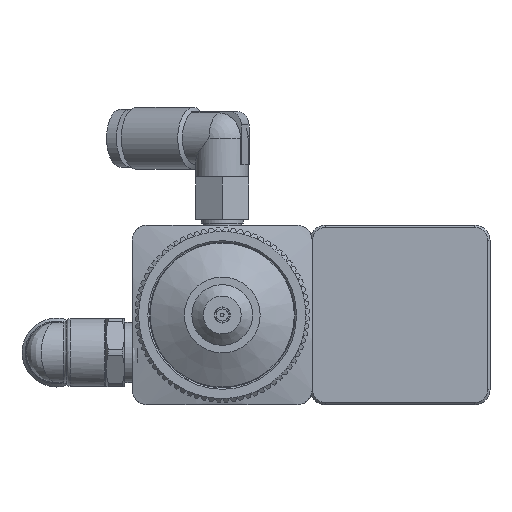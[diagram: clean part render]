
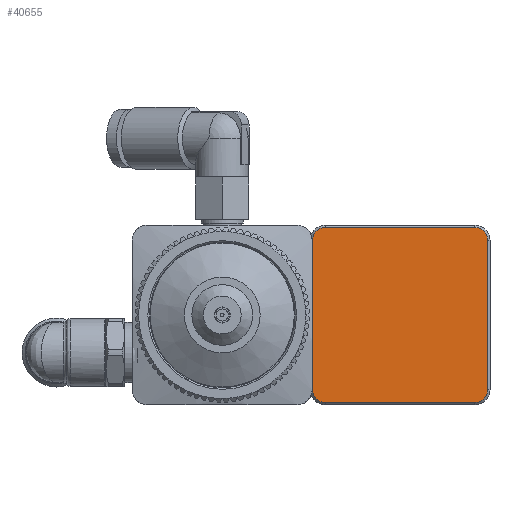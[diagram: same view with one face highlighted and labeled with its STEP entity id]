
A CAD part, front view. The second image highlights one B-rep face of the part: STEP entity #40655.
In plain terms, the highlighted planar face has unit normal (0, -1, 0).
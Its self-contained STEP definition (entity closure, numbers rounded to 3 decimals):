
#160 = CIRCLE ( 'NONE', #36258, 1.7 ) ;
#430 = VERTEX_POINT ( 'NONE', #2510 ) ;
#880 = DIRECTION ( 'NONE',  ( 0., 0., 1. ) ) ;
#2510 = CARTESIAN_POINT ( 'NONE',  ( 190.15, -26.85, 11.55 ) ) ;
#2898 = VERTEX_POINT ( 'NONE', #10738 ) ;
#3776 = DIRECTION ( 'NONE',  ( 0., -1., 0. ) ) ;
#3796 = VECTOR ( 'NONE', #28319, 1000. ) ;
#4065 = DIRECTION ( 'NONE',  ( 0., -1., 0. ) ) ;
#5830 = VERTEX_POINT ( 'NONE', #19244 ) ;
#5972 = LINE ( 'NONE', #40916, #3796 ) ;
#6050 = CARTESIAN_POINT ( 'NONE',  ( 209.85, -26.85, -11.55 ) ) ;
#6532 = VERTEX_POINT ( 'NONE', #6050 ) ;
#7159 = ORIENTED_EDGE ( 'NONE', *, *, #14835, .T. ) ;
#7206 = AXIS2_PLACEMENT_3D ( 'NONE', #38481, #46707, #11509 ) ;
#8125 = EDGE_CURVE ( 'NONE', #49233, #6532, #21408, .T. ) ;
#9200 = EDGE_CURVE ( 'NONE', #27322, #2898, #14053, .T. ) ;
#9824 = CARTESIAN_POINT ( 'NONE',  ( 190.15, -26.85, -11.55 ) ) ;
#10738 = CARTESIAN_POINT ( 'NONE',  ( 209.85, -26.85, 11.55 ) ) ;
#11509 = DIRECTION ( 'NONE',  ( 0., 0., 1. ) ) ;
#12649 = VECTOR ( 'NONE', #17552, 1000. ) ;
#13074 = CARTESIAN_POINT ( 'NONE',  ( 190.15, -26.85, 9.85 ) ) ;
#13115 = CARTESIAN_POINT ( 'NONE',  ( 211.55, -26.85, -9.85 ) ) ;
#13226 = ORIENTED_EDGE ( 'NONE', *, *, #9200, .T. ) ;
#14053 = CIRCLE ( 'NONE', #34552, 1.7 ) ;
#14175 = VERTEX_POINT ( 'NONE', #13115 ) ;
#14279 = VECTOR ( 'NONE', #34505, 1000. ) ;
#14835 = EDGE_CURVE ( 'NONE', #6532, #14175, #160, .T. ) ;
#15679 = LINE ( 'NONE', #31105, #44756 ) ;
#16916 = DIRECTION ( 'NONE',  ( 0., -1., 0. ) ) ;
#17552 = DIRECTION ( 'NONE',  ( 1., 0., 0. ) ) ;
#18330 = CIRCLE ( 'NONE', #47049, 1.7 ) ;
#19244 = CARTESIAN_POINT ( 'NONE',  ( 188.45, -26.85, 9.85 ) ) ;
#19563 = ORIENTED_EDGE ( 'NONE', *, *, #34700, .T. ) ;
#21408 = LINE ( 'NONE', #25770, #12649 ) ;
#24248 = EDGE_LOOP ( 'NONE', ( #19563, #13226, #41226, #50174, #37093, #35484, #49861, #7159 ) ) ;
#24909 = EDGE_CURVE ( 'NONE', #2898, #430, #49949, .T. ) ;
#25770 = CARTESIAN_POINT ( 'NONE',  ( 200., -26.85, -11.55 ) ) ;
#27322 = VERTEX_POINT ( 'NONE', #32899 ) ;
#28319 = DIRECTION ( 'NONE',  ( 0., 0., -1. ) ) ;
#28601 = EDGE_CURVE ( 'NONE', #5830, #29450, #5972, .T. ) ;
#29450 = VERTEX_POINT ( 'NONE', #39916 ) ;
#29617 = CARTESIAN_POINT ( 'NONE',  ( 200., -26.85, 11.55 ) ) ;
#29972 = CIRCLE ( 'NONE', #30777, 1.7 ) ;
#30295 = CARTESIAN_POINT ( 'NONE',  ( 209.85, -26.85, 9.85 ) ) ;
#30759 = FACE_OUTER_BOUND ( 'NONE', #24248, .T. ) ;
#30777 = AXIS2_PLACEMENT_3D ( 'NONE', #13074, #16916, #40049 ) ;
#31105 = CARTESIAN_POINT ( 'NONE',  ( 211.55, -26.85, 0. ) ) ;
#31320 = EDGE_CURVE ( 'NONE', #29450, #49233, #18330, .T. ) ;
#32899 = CARTESIAN_POINT ( 'NONE',  ( 211.55, -26.85, 9.85 ) ) ;
#34505 = DIRECTION ( 'NONE',  ( -1., 0., 0. ) ) ;
#34552 = AXIS2_PLACEMENT_3D ( 'NONE', #30295, #45950, #50085 ) ;
#34700 = EDGE_CURVE ( 'NONE', #14175, #27322, #15679, .T. ) ;
#35484 = ORIENTED_EDGE ( 'NONE', *, *, #31320, .T. ) ;
#36258 = AXIS2_PLACEMENT_3D ( 'NONE', #38683, #3776, #50539 ) ;
#37093 = ORIENTED_EDGE ( 'NONE', *, *, #28601, .T. ) ;
#38481 = CARTESIAN_POINT ( 'NONE',  ( 200., -26.85, 0. ) ) ;
#38683 = CARTESIAN_POINT ( 'NONE',  ( 209.85, -26.85, -9.85 ) ) ;
#39234 = CARTESIAN_POINT ( 'NONE',  ( 190.15, -26.85, -9.85 ) ) ;
#39916 = CARTESIAN_POINT ( 'NONE',  ( 188.45, -26.85, -9.85 ) ) ;
#40049 = DIRECTION ( 'NONE',  ( 0., 0., 1. ) ) ;
#40655 = ADVANCED_FACE ( 'NONE', ( #30759 ), #50070, .F. ) ;
#40916 = CARTESIAN_POINT ( 'NONE',  ( 188.45, -26.85, 0. ) ) ;
#41226 = ORIENTED_EDGE ( 'NONE', *, *, #24909, .T. ) ;
#41246 = EDGE_CURVE ( 'NONE', #430, #5830, #29972, .T. ) ;
#44756 = VECTOR ( 'NONE', #46245, 1000. ) ;
#45950 = DIRECTION ( 'NONE',  ( 0., -1., 0. ) ) ;
#46245 = DIRECTION ( 'NONE',  ( 0., 0., 1. ) ) ;
#46707 = DIRECTION ( 'NONE',  ( 0., 1., 0. ) ) ;
#47049 = AXIS2_PLACEMENT_3D ( 'NONE', #39234, #4065, #880 ) ;
#49233 = VERTEX_POINT ( 'NONE', #9824 ) ;
#49861 = ORIENTED_EDGE ( 'NONE', *, *, #8125, .T. ) ;
#49949 = LINE ( 'NONE', #29617, #14279 ) ;
#50070 = PLANE ( 'NONE',  #7206 ) ;
#50085 = DIRECTION ( 'NONE',  ( 0., 0., 1. ) ) ;
#50174 = ORIENTED_EDGE ( 'NONE', *, *, #41246, .T. ) ;
#50539 = DIRECTION ( 'NONE',  ( 0., 0., 1. ) ) ;
